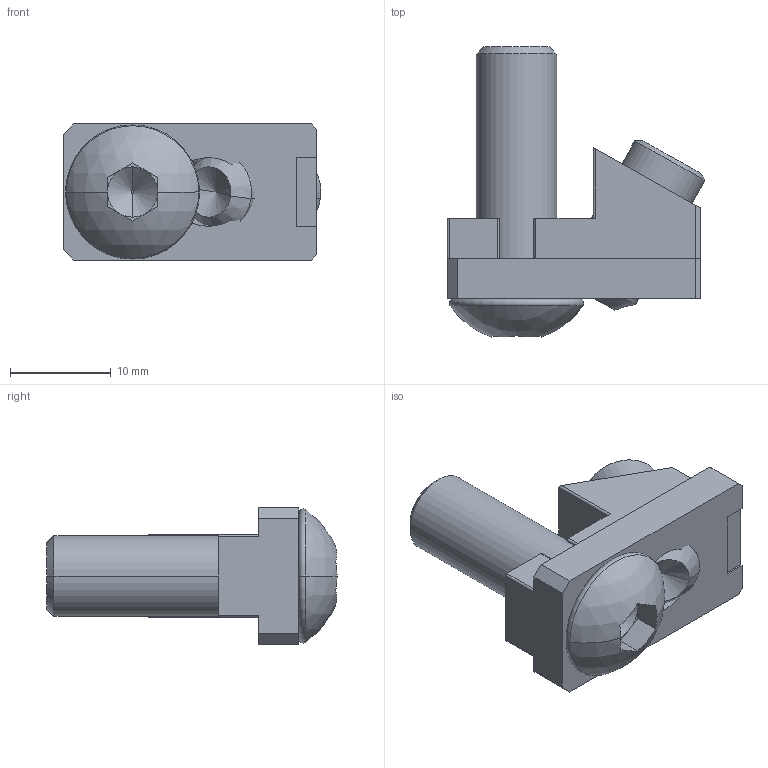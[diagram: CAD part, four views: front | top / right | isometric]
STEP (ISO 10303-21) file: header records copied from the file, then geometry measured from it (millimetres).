
FILE_DESCRIPTION (( 'STEP AP214' ), '1' );
FILE_NAME ('1.3005 Pikakiinnike lyhyt.STEP', '2025-09-08T08:17:45', ( '' ), ( '' ), 'SwSTEP 2.0', 'SolidWorks 2025', '' );
FILE_SCHEMA (( 'AUTOMOTIVE_DESIGN' ));
Length unit declared in the file: millimetre
Products named in the file (1): 1.3005 Pikakiinnike lyhyt
Bounding box: 25.6 x 28.8 x 13.5 mm (x, y, z)
Surface area: 3128.3 mm2 (no closed solid volume)
Topology: 0 solids, 4 shells, 79 faces, 211 edges, 134 vertices
Faces by surface type: plane 46, cylinder 19, cone 10, sphere 2, torus 2
Entity records: 2464 total; most frequent: CARTESIAN_POINT 455, DIRECTION 429, ORIENTED_EDGE 412, EDGE_CURVE 209, AXIS2_PLACEMENT_3D 148, VERTEX_POINT 134, LINE 133, VECTOR 133
